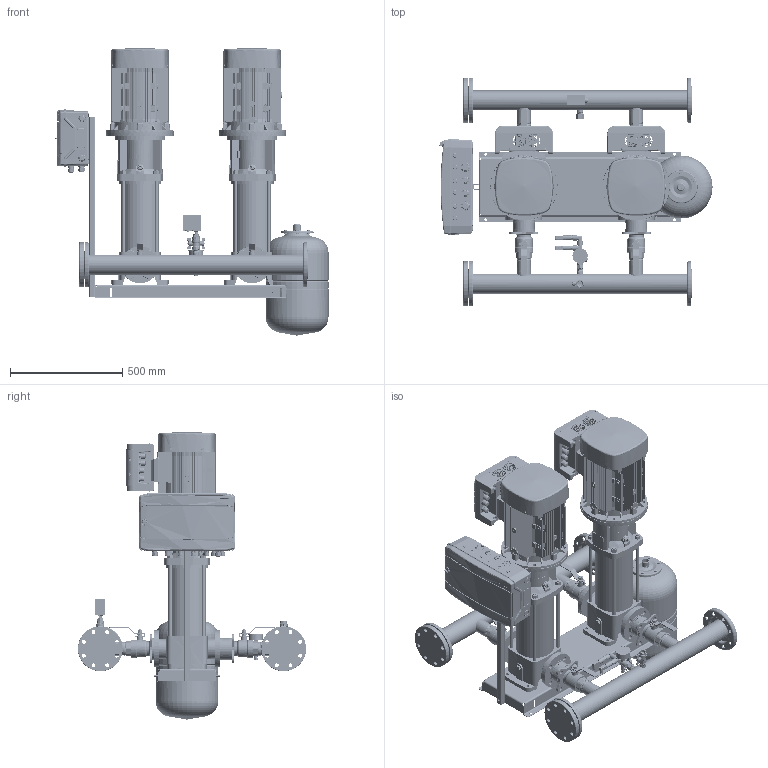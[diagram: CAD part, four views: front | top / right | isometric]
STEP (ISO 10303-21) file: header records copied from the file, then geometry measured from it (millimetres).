
FILE_DESCRIPTION(('CATIA V5 STEP Exchange','CAx-IF Rec.Pracs.--- Model Styling and Organization---1.4--- 2014-01-23','CAx-IF Rec.Pracs.---3D Tessellated Data Validation Properties---0.5---2014-09-14'),'2;1');
FILE_NAME('C:\Users\78432\YandexDisk\Drawings and 3D\3D Hydro Booster\Hydro-ME 3D\Hydro Models\Hydro ME 2 CRV15_20-xx (DIN BV)\Hydro ME 2 CRVE20-7 (DIN BV).stp','2023-09-20T12:44:35+00:00',('none'),('none'),'CATIA Version 5-6 Release 2019 SP6','CATIA V5 STEP AP242 v1','none');
FILE_SCHEMA(('AP242_MANAGED_MODEL_BASED_3D_ENGINEERING_MIM_LF {1 0 10303 442 1 1 4}'));
Products named in the file (44): Hydro ME 2 CRVE20-7 (DIN BV); 92051009; CRV20-7 set (DIN bv); CRV 20-7_A_DIN_7.5kW; Base; Sleeve; Pumphead; Staybolt.1; Staybolt.2; Staybolt.3; Staybolt.4; Plug; AirVent; Motor; 00id2584; 92802785; 99273085; SAJ PDH30 4-7,5kW; 97941446; 405801; 91040270; 91070073; 99110037; 97941483; 00GW4890; Holder and CP 18mod; 92878909; Control ME (18mod); 2 sensors + manometer cpl.; manometr 16 bar; RPD-I-G1_2; 9021-01; 2070 1/2-1/2; _2020 1/2-1/2; 98594078; Tank 24L cpl.; DN20_FF_BF_47.300.20; WAV-24(D140 1''); 9021-03; Relay cpl.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
Assembly tree (54 placements, depth 4):
  Hydro ME 2 CRVE20-7 (DIN BV)
    92051009
    CRV20-7 set (DIN bv)  x2
      CRV 20-7_A_DIN_7.5kW
        Base
        Sleeve
        Pumphead
        Staybolt.1
        Staybolt.2
        Staybolt.3
        Staybolt.4
        Plug
        AirVent
        Motor
      00id2584
      92802785
      99273085
      SAJ PDH30 4-7,5kW
    97941446  x2
      405801
      91040270
      91070073
      99110037
      97941483
    00GW4890  x2
    Holder and CP 18mod
      92878909
      Control ME (18mod)
    2 sensors + manometer cpl.
      manometr 16 bar
      RPD-I-G1_2  x2
      9021-01
      2070 1/2-1/2
      _2020 1/2-1/2
      98594078
    Tank 24L cpl.
      DN20_FF_BF_47.300.20
      9021-03
    Relay cpl.
      Relay RD-2R
      DN20_FF_BF_47.300.20
      2530 3/4-1/2
      _2530 1/2-1/4
    91078139
  WAV-24(D140 1'')
Bounding box: 1216.82 x 1016.5 x 1285.33 mm (x, y, z)
Volume: 72803652.6 mm3; surface area: 10138368.5 mm2
Topology: 230 solids, 288 shells, 25281 faces, 82410 edges, 58478 vertices
Faces by surface type: plane 10212, cylinder 6723, bspline 5842, cone 1713, torus 594, sphere 197
Entity records: 721623 total; most frequent: CARTESIAN_POINT 379828, ORIENTED_EDGE 89797, EDGE_CURVE 45439, DIRECTION 39164, VERTEX_POINT 31221, B_SPLINE_CURVE_WITH_KNOTS 19615, VECTOR 18375, LINE 18375
